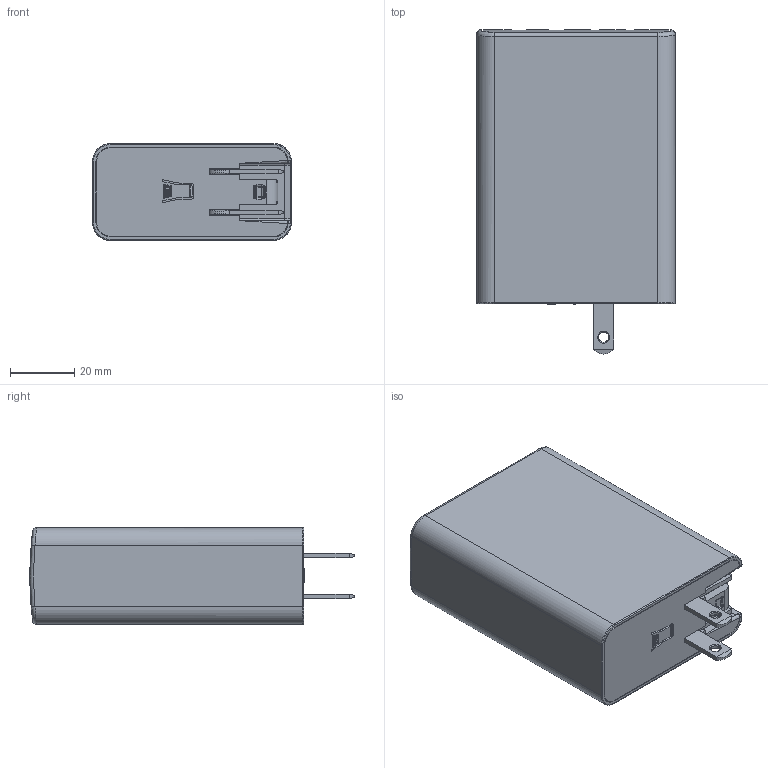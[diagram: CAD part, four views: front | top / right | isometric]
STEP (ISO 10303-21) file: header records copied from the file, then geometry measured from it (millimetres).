
FILE_DESCRIPTION(('Creo Elements/Direct Modeling STEP Export'),'2;1');
FILE_NAME('NGE100U.stp','2025-09-30T11:01:46',(''),(''),'Creo Elements/Direct Modeling STEP processor for AP214 (Solid Model)','Creo Elements/Direct Modeling 19.0G 27-Nov-2017 (C) Parametric Technology GmbH','');
FILE_SCHEMA(('AUTOMOTIVE_DESIGN { 1 0 10303 214 1 1 1 1 }'));
Length unit declared in the file: millimetre
Products named in the file (85): JJ_PRT_PRT.PRT; NGE100后盖板.stp; NGE100-B-20230704.prt; NGE100后盖.stp; NGE100后盖-20240514.stp; 2CDX-SOD323; D212; D204; D205; D206; D207; D208; D209; D210; D211; D213; D214; D215; USB2; USB1; Capacitor_1206_SMD1; C227; C212; CircuitWorks-RC0805; C238; C247; Board; USB-125(3-5A)Ö±¿Ú(1).8; USB-125(3-5A)Ö±¿Ú(1).9; USB-125(3-5A)Ö±¿Ú(1).10; USB-125(3-5A)Ö±¿Ú(1).6; USB-125(3-5A)Ö±¿Ú(1).4; USB-310HC-B-SU_L10.1; USB-125(3-5A)Ö±¿Ú(1).7; Free-Models; PCB; NGE100C-R0X2(3).step; AAA-1024130.ASM; WW_1-544050.ASM; WW-546970.ASM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
Assembly tree (102 placements, depth 7):
  NGE100后盖板.stp
    JJ_PRT_PRT.PRT
  NGE100后盖-20240514.stp
    NGE100后盖.stp
      NGE100-B-20230704.prt
  NGE100C-R0X2(3).step
    PCB
      Free-Models
        USB-125(3-5A)Ö±¿Ú(1).7  x2
        USB-125(3-5A)Ö±¿Ú(1).4  x2
        USB-125(3-5A)Ö±¿Ú(1).6  x2
        USB-125(3-5A)Ö±¿Ú(1).10  x2
        USB-125(3-5A)Ö±¿Ú(1).9  x2
        USB-125(3-5A)Ö±¿Ú(1).8  x2
        USB-310HC-B-SU_L10.1  x2
      Board
      C247
        CircuitWorks-RC0805
      C238
        CircuitWorks-RC0805
      C212
        Capacitor_1206_SMD1
      C227
        Capacitor_1206_SMD1
      USB1
      USB2
      D215
        2CDX-SOD323
      D214
        2CDX-SOD323
      D213
        2CDX-SOD323
      D211
        2CDX-SOD323
      D210
        2CDX-SOD323
      D209
        2CDX-SOD323
      D208
        2CDX-SOD323
      D207
        2CDX-SOD323
      D206
        2CDX-SOD323
      D205
        2CDX-SOD323
      D204
        2CDX-SOD323
      D212
        2CDX-SOD323
  NGE100-20240424.stp
    麦拉散热片
    零件1
    NGE100-B-20240305.stp
      NGE100-B-20230704.stp
    NGE-100_____.stp
      NGE-100_X2_8F6C636259346A215757.ASM
        NGE-100______STP_ASM.ASM
          CASE_X2_524D84CB_X0__PRT-184750.ASM
            CASE_X2_524D84CB_X0__PRT-184350.PRT
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Bounding box: 62 x 101.25 x 30.2 mm (x, y, z)
Volume: 45678.5 mm3; surface area: 54914.7 mm2
Topology: 47 solids, 49 shells, 4328 faces, 12744 edges, 8565 vertices
Faces by surface type: plane 2461, cylinder 1360, bspline 187, torus 130, sphere 112, cone 70, extrusion 8
Entity records: 90870 total; most frequent: CARTESIAN_POINT 21231, ORIENTED_EDGE 12662, DIRECTION 11620, EDGE_CURVE 6339, VECTOR 4326, LINE 4322, VERTEX_POINT 4154, AXIS2_PLACEMENT_3D 3647
